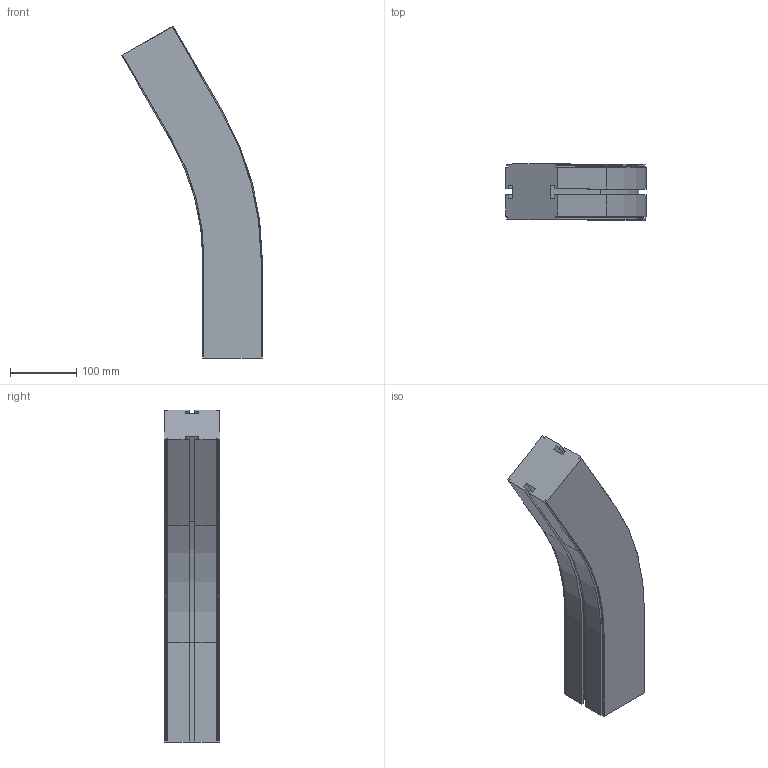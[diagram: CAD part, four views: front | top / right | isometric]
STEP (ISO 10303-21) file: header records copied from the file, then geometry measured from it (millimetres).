
FILE_DESCRIPTION (( 'STEP AP214' ), '1' );
FILE_NAME ('927809 CS090SL Horizontale bochtsectie R400 30°.STEP', '2014-03-20T14:51:20', ( 'Beheerder' ), ( '' ), 'SwSTEP 2.0', 'SolidWorks 2012', '' );
FILE_SCHEMA (( 'AUTOMOTIVE_DESIGN' ));
Length unit declared in the file: millimetre
Products named in the file (1): 927809 CS090SL Horizontale bochtsectie R400 30°
Bounding box: 212.56 x 84 x 502.4 mm (x, y, z)
Volume: 3644851.2 mm3; surface area: 245574.3 mm2
Topology: 1 solids, 1 shells, 98 faces, 272 edges, 176 vertices
Faces by surface type: plane 72, cylinder 18, cone 8
Entity records: 3126 total; most frequent: CARTESIAN_POINT 547, ORIENTED_EDGE 544, DIRECTION 514, EDGE_CURVE 272, VECTOR 228, LINE 228, VERTEX_POINT 176, AXIS2_PLACEMENT_3D 143
